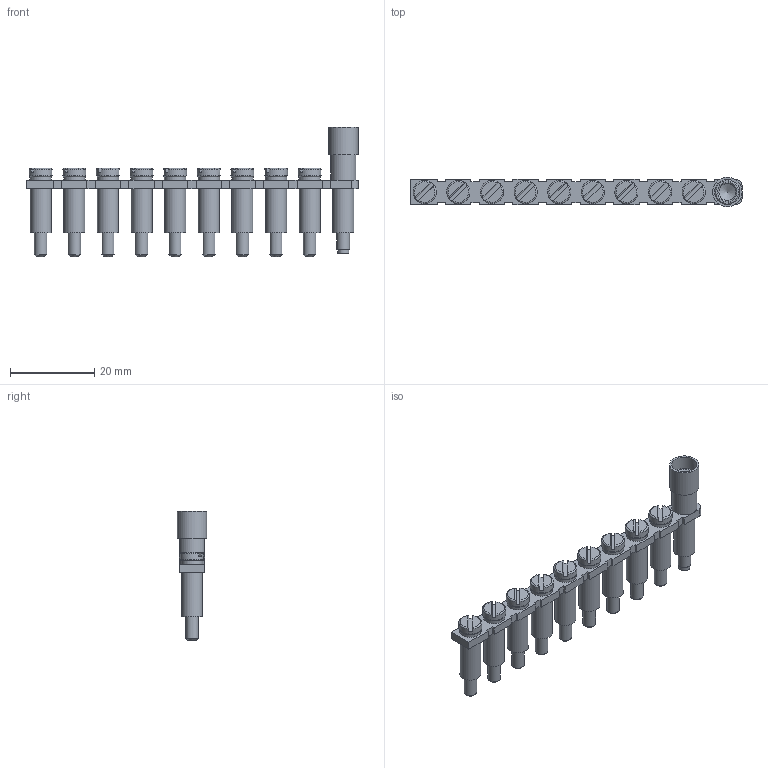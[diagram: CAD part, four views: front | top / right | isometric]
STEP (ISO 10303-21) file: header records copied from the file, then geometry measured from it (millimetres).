
FILE_DESCRIPTION(('STEP AP214'), '1');
FILE_NAME('Ìîñò Ì10-10', '2024-06-07T05:44:20', (''), (''), 'ASCON STEP Converter 1.6', 'ASCON Math Kernel', '');
FILE_SCHEMA(('AUTOMOTIVE_DESIGN { 1 0 10303 214 3 1 1}'));
Length unit declared in the file: millimetre
Products named in the file (1): ﾌ10-10
Bounding box: 79 x 7 x 30.8 mm (x, y, z)
Volume: 4113.9 mm3; surface area: 4443.2 mm2
Topology: 1 solids, 1 shells, 260 faces, 615 edges, 396 vertices
Faces by surface type: plane 163, cylinder 54, torus 28, cone 15
Full cylindrical faces by diameter (mm): 2.65 x1, 3 x10, 4 x1, 5 x10, 5.1 x9, 5.5 x9, 6 x2, 7 x1
Entity records: 9867 total; most frequent: CARTESIAN_POINT 1930, DIRECTION 1205, ORIENTED_EDGE 1100, EDGE_CURVE 550, AXIS2_PLACEMENT_3D 438, VERTEX_POINT 395, EDGE_LOOP 363, LINE 329
